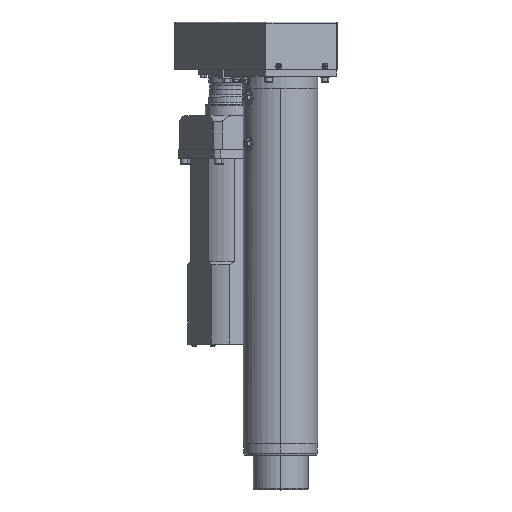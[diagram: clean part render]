
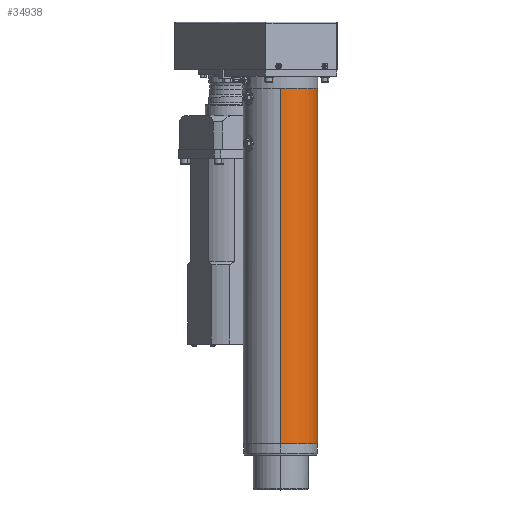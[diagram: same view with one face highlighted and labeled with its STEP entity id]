
A CAD part, top view. The second image highlights one B-rep face of the part: STEP entity #34938.
In plain terms, the highlighted cylindrical face has radius 64.5 mm (diameter 129 mm), a partial arc.
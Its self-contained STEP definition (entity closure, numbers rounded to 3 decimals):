
#1738 = ORIENTED_EDGE ( 'NONE', *, *, #3358, .F. ) ;
#3129 = EDGE_CURVE ( 'NONE', #31573, #32663, #28987, .T. ) ;
#3344 = DIRECTION ( 'NONE',  ( 0., -1., 0. ) ) ;
#3358 = EDGE_CURVE ( 'NONE', #39910, #32663, #26426, .T. ) ;
#3417 = EDGE_CURVE ( 'NONE', #8079, #39910, #25512, .T. ) ;
#3597 = ORIENTED_EDGE ( 'NONE', *, *, #9125, .T. ) ;
#3833 = CARTESIAN_POINT ( 'NONE',  ( 0., 0., 0. ) ) ;
#4155 = AXIS2_PLACEMENT_3D ( 'NONE', #3833, #3344, #4375 ) ;
#4375 = DIRECTION ( 'NONE',  ( 0., 0., -1. ) ) ;
#6310 = CIRCLE ( 'NONE', #28670, 64.5 ) ;
#6425 = CARTESIAN_POINT ( 'NONE',  ( 0., 633.5, -64.5 ) ) ;
#7273 = ORIENTED_EDGE ( 'NONE', *, *, #3129, .T. ) ;
#8079 = VERTEX_POINT ( 'NONE', #6425 ) ;
#8152 = EDGE_LOOP ( 'NONE', ( #3597, #7273, #1738, #37971 ) ) ;
#9125 = EDGE_CURVE ( 'NONE', #8079, #31573, #6310, .T. ) ;
#10327 = CARTESIAN_POINT ( 'NONE',  ( 0., 633.5, 64.5 ) ) ;
#19942 = CYLINDRICAL_SURFACE ( 'NONE', #4155, 64.5 ) ;
#20023 = FACE_OUTER_BOUND ( 'NONE', #8152, .T. ) ;
#21363 = CARTESIAN_POINT ( 'NONE',  ( 0., 0., -64.5 ) ) ;
#21782 = DIRECTION ( 'NONE',  ( 0., -1., 0. ) ) ;
#21897 = DIRECTION ( 'NONE',  ( 0., 0., -1. ) ) ;
#22034 = DIRECTION ( 'NONE',  ( 0., -1., 0. ) ) ;
#22095 = CARTESIAN_POINT ( 'NONE',  ( 0., 20., 0. ) ) ;
#25512 = LINE ( 'NONE', #21363, #26068 ) ;
#26068 = VECTOR ( 'NONE', #21782, 1000. ) ;
#26426 = CIRCLE ( 'NONE', #35359, 64.5 ) ;
#28514 = CARTESIAN_POINT ( 'NONE',  ( 0., 0., 64.5 ) ) ;
#28624 = VECTOR ( 'NONE', #31139, 1000. ) ;
#28670 = AXIS2_PLACEMENT_3D ( 'NONE', #40315, #40217, #40179 ) ;
#28987 = LINE ( 'NONE', #28514, #28624 ) ;
#31139 = DIRECTION ( 'NONE',  ( 0., -1., 0. ) ) ;
#31573 = VERTEX_POINT ( 'NONE', #10327 ) ;
#32663 = VERTEX_POINT ( 'NONE', #37846 ) ;
#34938 = ADVANCED_FACE ( 'NONE', ( #20023 ), #19942, .T. ) ;
#35359 = AXIS2_PLACEMENT_3D ( 'NONE', #22095, #22034, #21897 ) ;
#37449 = CARTESIAN_POINT ( 'NONE',  ( 0., 20., -64.5 ) ) ;
#37846 = CARTESIAN_POINT ( 'NONE',  ( 0., 20., 64.5 ) ) ;
#37971 = ORIENTED_EDGE ( 'NONE', *, *, #3417, .F. ) ;
#39910 = VERTEX_POINT ( 'NONE', #37449 ) ;
#40179 = DIRECTION ( 'NONE',  ( 0., 0., -1. ) ) ;
#40217 = DIRECTION ( 'NONE',  ( 0., -1., 0. ) ) ;
#40315 = CARTESIAN_POINT ( 'NONE',  ( 0., 633.5, 0. ) ) ;
